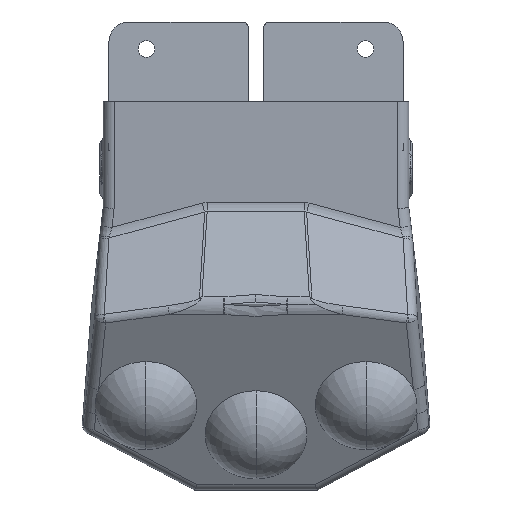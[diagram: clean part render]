
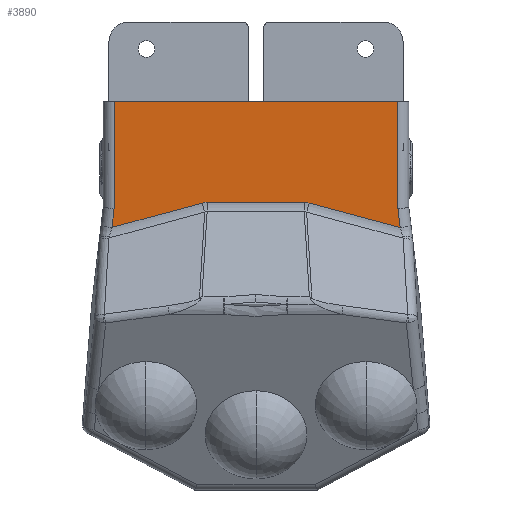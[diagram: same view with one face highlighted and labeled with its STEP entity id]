
A CAD part, top view. The second image highlights one B-rep face of the part: STEP entity #3890.
In plain terms, the highlighted planar face has unit normal (0, -0.075, 0.997).
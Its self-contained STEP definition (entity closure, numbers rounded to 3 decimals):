
#57 = CARTESIAN_POINT ( 'NONE',  ( 24.188, -50.65, 41.177 ) ) ;
#133 = PLANE ( 'NONE',  #4142 ) ;
#277 = CARTESIAN_POINT ( 'NONE',  ( -26.995, -50.983, 41.152 ) ) ;
#291 = CARTESIAN_POINT ( 'NONE',  ( 25.825, -50.761, 41.169 ) ) ;
#359 = LINE ( 'NONE', #4755, #3756 ) ;
#371 = CARTESIAN_POINT ( 'NONE',  ( -26.995, -50.983, 41.152 ) ) ;
#478 = CARTESIAN_POINT ( 'NONE',  ( -72.365, -63.238, 40.227 ) ) ;
#481 = CARTESIAN_POINT ( 'NONE',  ( -25.663, -50.623, 41.179 ) ) ;
#521 =( BOUNDED_CURVE ( )  B_SPLINE_CURVE ( 3, ( #2544, #798, #1243, #277 ),
 .UNSPECIFIED., .F., .F. ) 
 B_SPLINE_CURVE_WITH_KNOTS ( ( 4, 4 ),
 ( 0.028, 0.15 ),
 .UNSPECIFIED. ) 
 CURVE ( )  GEOMETRIC_REPRESENTATION_ITEM ( )  RATIONAL_B_SPLINE_CURVE ( ( 1., 0.999, 0.999, 1. ) ) 
 REPRESENTATION_ITEM ( '' )  );
#544 = EDGE_LOOP ( 'NONE', ( #5634, #4807, #3794, #843, #1423, #1297, #4719, #3051, #3181, #602 ) ) ;
#556 = VERTEX_POINT ( 'NONE', #3603 ) ;
#602 = ORIENTED_EDGE ( 'NONE', *, *, #5310, .F. ) ;
#729 = CARTESIAN_POINT ( 'NONE',  ( 71.25, 0., 45. ) ) ;
#732 = DIRECTION ( 'NONE',  ( 0., -0.997, -0.075 ) ) ;
#798 = CARTESIAN_POINT ( 'NONE',  ( -25.353, -50.65, 41.177 ) ) ;
#843 = ORIENTED_EDGE ( 'NONE', *, *, #5484, .F. ) ;
#852 = VERTEX_POINT ( 'NONE', #57 ) ;
#860 = VERTEX_POINT ( 'NONE', #1422 ) ;
#1115 = LINE ( 'NONE', #3436, #4915 ) ;
#1143 = DIRECTION ( 'NONE',  ( 0., 0.997, 0.075 ) ) ;
#1199 = VECTOR ( 'NONE', #4576, 1000. ) ;
#1243 = CARTESIAN_POINT ( 'NONE',  ( -26.174, -50.761, 41.169 ) ) ;
#1297 = ORIENTED_EDGE ( 'NONE', *, *, #4521, .F. ) ;
#1422 = CARTESIAN_POINT ( 'NONE',  ( 26.646, -50.983, 41.152 ) ) ;
#1423 = ORIENTED_EDGE ( 'NONE', *, *, #3257, .T. ) ;
#1539 = LINE ( 'NONE', #5115, #5668 ) ;
#1613 = VERTEX_POINT ( 'NONE', #5877 ) ;
#1691 = VECTOR ( 'NONE', #2526, 1000. ) ;
#1817 = LINE ( 'NONE', #5084, #1199 ) ;
#1866 = VERTEX_POINT ( 'NONE', #729 ) ;
#1894 = FACE_OUTER_BOUND ( 'NONE', #544, .T. ) ;
#2050 = LINE ( 'NONE', #3895, #4148 ) ;
#2064 = VECTOR ( 'NONE', #2077, 1000. ) ;
#2077 = DIRECTION ( 'NONE',  ( 1., 0., 0. ) ) ;
#2080 = CARTESIAN_POINT ( 'NONE',  ( 24.188, -50.65, 41.177 ) ) ;
#2318 = EDGE_CURVE ( 'NONE', #5552, #5017, #5857, .T. ) ;
#2339 = VECTOR ( 'NONE', #3621, 1000. ) ;
#2360 =( BOUNDED_CURVE ( )  B_SPLINE_CURVE ( 3, ( #3792, #291, #4678, #2080 ),
 .UNSPECIFIED., .F., .F. ) 
 B_SPLINE_CURVE_WITH_KNOTS ( ( 4, 4 ),
 ( 6.133, 6.255 ),
 .UNSPECIFIED. ) 
 CURVE ( )  GEOMETRIC_REPRESENTATION_ITEM ( )  RATIONAL_B_SPLINE_CURVE ( ( 1., 0.999, 0.999, 1. ) ) 
 REPRESENTATION_ITEM ( '' )  );
#2526 = DIRECTION ( 'NONE',  ( -0.116, 0.99, 0.075 ) ) ;
#2544 = CARTESIAN_POINT ( 'NONE',  ( -24.537, -50.65, 41.177 ) ) ;
#2633 = EDGE_CURVE ( 'NONE', #860, #1613, #359, .T. ) ;
#2834 = DIRECTION ( 'NONE',  ( 0., -0.075, 0.997 ) ) ;
#2920 = VERTEX_POINT ( 'NONE', #5629 ) ;
#2999 = CARTESIAN_POINT ( 'NONE',  ( 71.239, -53.643, 40.951 ) ) ;
#3012 = VERTEX_POINT ( 'NONE', #4028 ) ;
#3051 = ORIENTED_EDGE ( 'NONE', *, *, #4499, .T. ) ;
#3181 = ORIENTED_EDGE ( 'NONE', *, *, #4197, .T. ) ;
#3235 = CARTESIAN_POINT ( 'NONE',  ( -39., 0., 45. ) ) ;
#3257 = EDGE_CURVE ( 'NONE', #4564, #852, #4331, .T. ) ;
#3372 = CARTESIAN_POINT ( 'NONE',  ( -24.537, -50.65, 41.177 ) ) ;
#3436 = CARTESIAN_POINT ( 'NONE',  ( -71.25, -53., 41. ) ) ;
#3603 = CARTESIAN_POINT ( 'NONE',  ( -71.25, 0., 45. ) ) ;
#3621 = DIRECTION ( 'NONE',  ( 0.965, 0.261, 0.02 ) ) ;
#3756 = VECTOR ( 'NONE', #5297, 1000. ) ;
#3765 = DIRECTION ( 'NONE',  ( 0., -0.997, -0.075 ) ) ;
#3792 = CARTESIAN_POINT ( 'NONE',  ( 26.646, -50.983, 41.152 ) ) ;
#3794 = ORIENTED_EDGE ( 'NONE', *, *, #2318, .T. ) ;
#3886 = CARTESIAN_POINT ( 'NONE',  ( 24.668, -50.65, 41.177 ) ) ;
#3890 = ADVANCED_FACE ( 'NONE', ( #1894 ), #133, .T. ) ;
#3895 = CARTESIAN_POINT ( 'NONE',  ( 71.25, 0., 45. ) ) ;
#3924 = EDGE_CURVE ( 'NONE', #556, #2920, #1115, .T. ) ;
#4028 = CARTESIAN_POINT ( 'NONE',  ( 71.25, -53.736, 40.944 ) ) ;
#4142 = AXIS2_PLACEMENT_3D ( 'NONE', #3235, #2834, #3765 ) ;
#4148 = VECTOR ( 'NONE', #1143, 1000. ) ;
#4197 = EDGE_CURVE ( 'NONE', #3012, #1866, #2050, .T. ) ;
#4331 = LINE ( 'NONE', #3886, #2064 ) ;
#4368 = LINE ( 'NONE', #2999, #1691 ) ;
#4499 = EDGE_CURVE ( 'NONE', #1613, #3012, #4368, .T. ) ;
#4521 = EDGE_CURVE ( 'NONE', #860, #852, #2360, .T. ) ;
#4564 = VERTEX_POINT ( 'NONE', #3372 ) ;
#4576 = DIRECTION ( 'NONE',  ( -0.116, -0.99, -0.075 ) ) ;
#4678 = CARTESIAN_POINT ( 'NONE',  ( 25.004, -50.65, 41.177 ) ) ;
#4719 = ORIENTED_EDGE ( 'NONE', *, *, #2633, .T. ) ;
#4755 = CARTESIAN_POINT ( 'NONE',  ( 78.944, -65.109, 40.086 ) ) ;
#4807 = ORIENTED_EDGE ( 'NONE', *, *, #5141, .T. ) ;
#4915 = VECTOR ( 'NONE', #732, 1000. ) ;
#5017 = VERTEX_POINT ( 'NONE', #371 ) ;
#5084 = CARTESIAN_POINT ( 'NONE',  ( -72.425, -63.752, 40.189 ) ) ;
#5115 = CARTESIAN_POINT ( 'NONE',  ( -39., 0., 45. ) ) ;
#5141 = EDGE_CURVE ( 'NONE', #2920, #5552, #1817, .T. ) ;
#5297 = DIRECTION ( 'NONE',  ( 0.965, -0.261, -0.02 ) ) ;
#5310 = EDGE_CURVE ( 'NONE', #556, #1866, #1539, .T. ) ;
#5484 = EDGE_CURVE ( 'NONE', #4564, #5017, #521, .T. ) ;
#5552 = VERTEX_POINT ( 'NONE', #478 ) ;
#5629 = CARTESIAN_POINT ( 'NONE',  ( -71.25, -53.736, 40.944 ) ) ;
#5634 = ORIENTED_EDGE ( 'NONE', *, *, #3924, .T. ) ;
#5641 = DIRECTION ( 'NONE',  ( 1., 0., 0. ) ) ;
#5668 = VECTOR ( 'NONE', #5641, 1000. ) ;
#5857 = LINE ( 'NONE', #481, #2339 ) ;
#5877 = CARTESIAN_POINT ( 'NONE',  ( 72.376, -63.335, 40.22 ) ) ;
